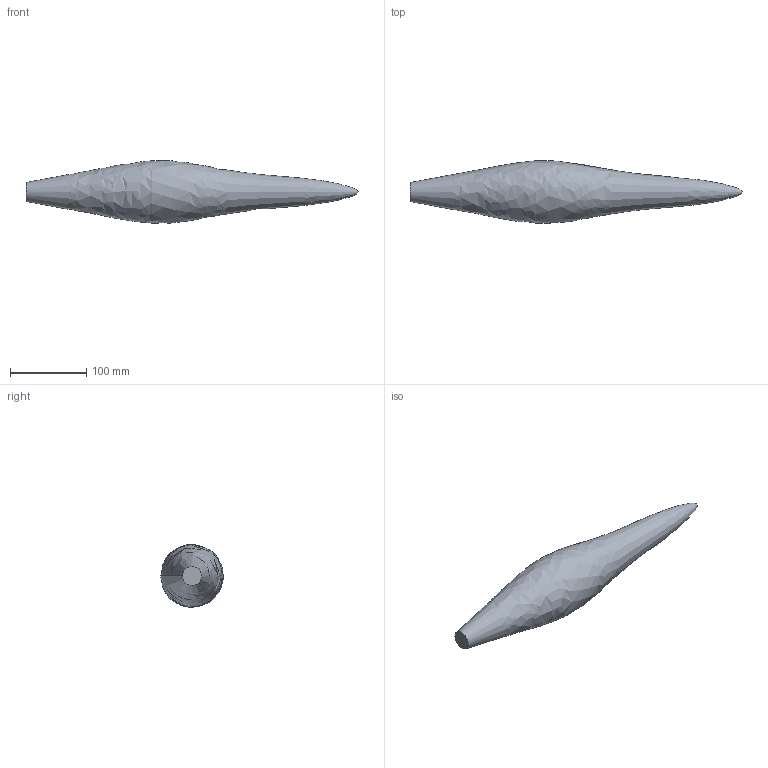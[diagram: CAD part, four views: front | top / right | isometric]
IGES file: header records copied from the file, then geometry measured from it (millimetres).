
Global section: file name: No Iges File Name specified; native system: AutoDesk Inventor R6.1; preprocessor: AutoDesk Inventor Iges Exporter R6.1; author: No Author specified; organization: No Organization specified; date: 20050811.082250; units: millimetre
Bounding box: 436.16 x 82.01 x 82.01 mm (x, y, z)
Surface area: 72825.8 mm2 (no closed solid volume)
Topology: 0 solids, 0 shells, 2 faces, 5 edges, 3 vertices
Faces by surface type: bspline 1, plane 1
